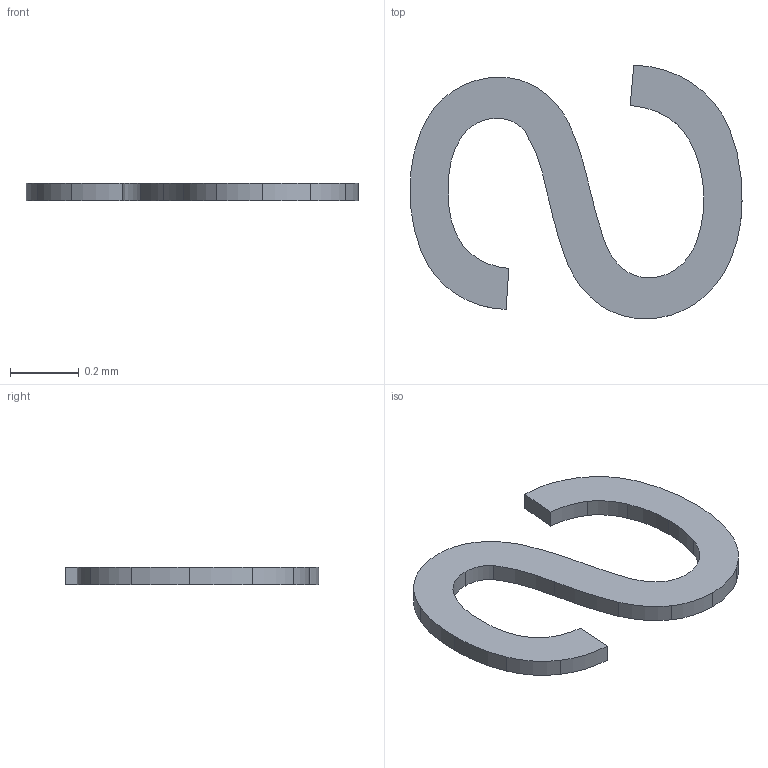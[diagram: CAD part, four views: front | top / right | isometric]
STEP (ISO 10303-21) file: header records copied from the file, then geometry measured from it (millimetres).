
FILE_DESCRIPTION(/* description */ ('STEP AP242 Edition 2','CAx-IF Rec.Pracs.---Representation and Presentation of Product Manufacturing Information (PMI)---4.0---2014-10-13','CAx-IF Rec.Pracs.---3D Tessellated Geometry---0.4---2014-09-14','2;1','CAx-IF Rec.Pracs.---User Defined Attributes---1.5---2016-08-15'),/* implementation_level */ '2;1');
FILE_NAME(/* name */ 'Drone Layout - Surface 317',/* time_stamp */ '2026-10-04T22:22:55Z',/* author */ (''),/* organization */ (''),/* preprocessor_version */ 'ST-DEVELOPER v20',/* originating_system */ 'ONSHAPE BY PTC INC, 1.221',/* authorisation */ ' ');
FILE_SCHEMA (('AP242_MANAGED_MODEL_BASED_3D_ENGINEERING_MIM_LF { 1 0 10303 442 3 1 4 }'));
Length unit declared in the file: metre
Products named in the file (1): Text_SDA
Bounding box: 0.97 x 0.74 x 0.05 mm (x, y, z)
Volume: 0 mm3; surface area: 0.8 mm2
Topology: 1 solids, 1 shells, 37 faces, 105 edges, 70 vertices
Faces by surface type: cylinder 33, plane 4
Entity records: 1286 total; most frequent: CARTESIAN_POINT 297, DIRECTION 219, ORIENTED_EDGE 210, EDGE_CURVE 105, AXIS2_PLACEMENT_3D 104, VERTEX_POINT 70, CIRCLE 66, EDGE_LOOP 37
